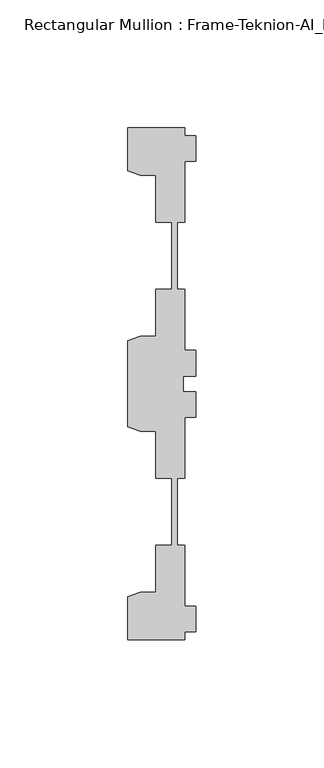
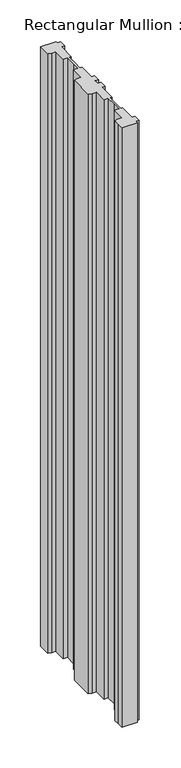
"""IFC4 building model written with IfcOpenShell, lengths in millimetres: member geometry, Rectangular Mullion : Frame-Teknion-AI_Healthcare-Ceiling_Double_Channel."""

import ifcopenshell
import ifcopenshell.guid

model = None  # the IFC model being written
_history = None  # IfcOwnerHistory: only IFC2X3 demands one
_inside = {}  # id of a spatial element -> (the spatial element, [elements in it])
_under = {}  # id of a project, library or spatial element -> (it, [spatial elements below it])
_declared = {}  # id of a project -> (the project, [libraries it declares])
_typed = {}  # id of a type object -> (the type object, [elements of that type])
_made_of = {}  # id of a material, layer set ... -> (it, [elements and type objects made of it])


def new_model(schema):
    """Start an empty IFC model of exactly this schema.

    Asked for "IFC4X3", IfcOpenShell would pick the latest addendum, in which some entities
    have other attributes; the version numbers below select the first issue.
    IFC2X3 requires an IfcOwnerHistory on every rooted entity: one is made here for all.
    """
    global model, _history
    if schema == "IFC4X3":
        model = ifcopenshell.file(schema_version=(4, 3, 0, 0))
    else:
        model = ifcopenshell.file(schema=schema)
    _inside.clear()
    _under.clear()
    _declared.clear()
    _typed.clear()
    _made_of.clear()
    _history = None
    if model.schema == "IFC2X3":
        org = make("IfcOrganization", Name="unknown")
        user = make(
            "IfcPersonAndOrganization",
            ThePerson=make("IfcPerson", FamilyName="unknown"),
            TheOrganization=org,
        )
        app = make(
            "IfcApplication",
            ApplicationDeveloper=org,
            Version="unknown",
            ApplicationFullName="unknown",
            ApplicationIdentifier="unknown",
        )
        _history = make(
            "IfcOwnerHistory",
            OwningUser=user,
            OwningApplication=app,
            ChangeAction="ADDED",
            CreationDate=0,
        )
    return model


def make(cls, **values):
    """One entity of the class cls with the attributes given. An attribute that is None is left unset."""
    return model.create_entity(
        cls, **{name: value for name, value in values.items() if value is not None}
    )


def rooted(cls, **values):
    """An entity with a GlobalId (a new one), such as an element, a storey or a relation."""
    return make(cls, GlobalId=ifcopenshell.guid.new(), OwnerHistory=_history, **values)


def si_unit(unit_type, name, prefix=None):
    """IfcSIUnit, for example si_unit("LENGTHUNIT", "METRE", prefix="MILLI")."""
    return make("IfcSIUnit", UnitType=unit_type, Prefix=prefix, Name=name)


def assignment(units):
    """IfcUnitAssignment: the units of a project."""
    return None if units is None else make("IfcUnitAssignment", Units=units)


def point(xyz):
    """IfcCartesianPoint."""
    return None if xyz is None else make("IfcCartesianPoint", Coordinates=xyz)


def direction(xyz):
    """IfcDirection."""
    return None if xyz is None else make("IfcDirection", DirectionRatios=xyz)


def frame(location, z_axis=None, x_axis=None):
    """IfcAxis2Placement3D, a coordinate frame: its origin and axes. An axis left out is left unset."""
    return make(
        "IfcAxis2Placement3D",
        Location=point(location),
        Axis=direction(z_axis),
        RefDirection=direction(x_axis),
    )


def origin():
    """The frame at (0, 0, 0) with its axes left unset."""
    return frame((0.0, 0.0, 0.0))


def place(relative_to, where):
    """IfcLocalPlacement: puts the frame where relative to a parent placement (None: the world)."""
    return make(
        "IfcLocalPlacement", PlacementRelTo=relative_to, RelativePlacement=where
    )


def context(
    kind, dimensions, precision=None, world=None, true_north=None, identifier=None
):
    """IfcGeometricRepresentationContext, for example the 3D "Model" context."""
    return make(
        "IfcGeometricRepresentationContext",
        ContextIdentifier=identifier,
        ContextType=kind,
        CoordinateSpaceDimension=dimensions,
        Precision=precision,
        WorldCoordinateSystem=world,
        TrueNorth=true_north,
    )


def project(units=None, contexts=None):
    """IfcProject with its units and contexts."""
    return rooted(
        "IfcProject",
        Name="project",
        RepresentationContexts=contexts,
        UnitsInContext=assignment(units),
    )


def spatial(cls, under=None, at=None, **own):
    """A site, building, storey or space (cls), placed at a placement, below another one or the project."""
    s = rooted(cls, ObjectPlacement=at, **own)
    if under is not None:
        _under.setdefault(under.id(), (under, []))[1].append(s)
    return s


def polyline(points):
    """IfcPolyline through the points."""
    return make("IfcPolyline", Points=[point(p) for p in points])


def outline(outer, holes=None, kind="AREA"):
    """IfcArbitraryClosedProfileDef: a profile drawn as a closed curve; with holes, ...WithVoids."""
    if holes is None:
        return make("IfcArbitraryClosedProfileDef", ProfileType=kind, OuterCurve=outer)
    return make(
        "IfcArbitraryProfileDefWithVoids",
        ProfileType=kind,
        OuterCurve=outer,
        InnerCurves=holes,
    )


def extrude(swept, where, along, depth):
    """IfcExtrudedAreaSolid: the profile swept, set in the frame where, extruded along a direction by depth."""
    return make(
        "IfcExtrudedAreaSolid",
        SweptArea=swept,
        Position=where,
        ExtrudedDirection=direction(along),
        Depth=depth,
    )


def shape(context_of_items, identifier, shape_type, items):
    """IfcShapeRepresentation: the items that make up one representation, for example the "Body"."""
    return make(
        "IfcShapeRepresentation",
        ContextOfItems=context_of_items,
        RepresentationIdentifier=identifier,
        RepresentationType=shape_type,
        Items=items,
    )


def source(mapping_origin, context_of_items, identifier, shape_type, items):
    """IfcRepresentationMap: a shape defined once, which mapped items show again and again."""
    return make(
        "IfcRepresentationMap",
        MappingOrigin=mapping_origin,
        MappedRepresentation=shape(context_of_items, identifier, shape_type, items),
    )


def transform(
    local_origin,
    x_axis=None,
    y_axis=None,
    z_axis=None,
    scale=None,
    scale2=None,
    scale3=None,
    uniform=True,
):
    """IfcCartesianTransformationOperator3D, or its non-uniform kind. x_axis, y_axis, z_axis: its Axis1, 2, 3."""
    if uniform:
        return make(
            "IfcCartesianTransformationOperator3D",
            Axis1=direction(x_axis),
            Axis2=direction(y_axis),
            LocalOrigin=point(local_origin),
            Scale=scale,
            Axis3=direction(z_axis),
        )
    return make(
        "IfcCartesianTransformationOperator3DnonUniform",
        Axis1=direction(x_axis),
        Axis2=direction(y_axis),
        LocalOrigin=point(local_origin),
        Scale=scale,
        Axis3=direction(z_axis),
        Scale2=scale2,
        Scale3=scale3,
    )


def mapped(mapping_source, mapping_target):
    """IfcMappedItem: shows the shape of a source again, moved by a transform."""
    return make(
        "IfcMappedItem", MappingSource=mapping_source, MappingTarget=mapping_target
    )


def made_of(thing, what):
    """Note that an element or type object is made of a material, layer set ...; save() writes the relation."""
    if what is not None:
        _made_of.setdefault(what.id(), (what, []))[1].append(thing)
    return thing


def element(
    cls,
    number,
    at=None,
    inside=None,
    cuts=None,
    type_object=None,
    material=None,
    context=None,
    identifier="Body",
    shape_type=None,
    held_by="IfcProductDefinitionShape",
    body=None,
    shapes=None,
    **own,
):
    """One element of the class cls, such as IfcWall. Its Tag is "e" and its number.

    at: its placement. inside: the storey or other place that contains it. cuts: it is an
    opening in that element (IfcRelVoidsElement). A single representation is given by context,
    identifier, shape_type and body (its items); several are given by shapes. held_by: the class
    of the entity that holds the representations. save() writes the other relations.
    """
    e = rooted(cls, Tag="e%d" % number, ObjectPlacement=at, **own)
    if body is not None:
        shapes = [shape(context, identifier, shape_type, body)]
    if shapes is not None:
        e.Representation = make(held_by, Representations=shapes)
    if inside is not None:
        _inside.setdefault(inside.id(), (inside, []))[1].append(e)
    if cuts is not None:
        rooted(
            "IfcRelVoidsElement", RelatingBuildingElement=cuts, RelatedOpeningElement=e
        )
    if type_object is not None:
        _typed.setdefault(type_object.id(), (type_object, []))[1].append(e)
    return made_of(e, material)


def aggregate(whole, parts):
    """IfcRelAggregates: a whole, such as a stair, and the parts it consists of."""
    return rooted("IfcRelAggregates", RelatingObject=whole, RelatedObjects=parts)


def save(model, path):
    """Write the relations noted so far, then the file.

    IfcRelAggregates (storeys below a building ...), IfcRelContainedInSpatialStructure (elements
    in a storey), IfcRelDefinesByType, IfcRelAssociatesMaterial and IfcRelDeclares: one each for
    every whole, place, type object, material and project.
    """
    for whole, parts in _under.values():
        aggregate(whole, parts)
    for where, things in _inside.values():
        rooted(
            "IfcRelContainedInSpatialStructure",
            RelatedElements=things,
            RelatingStructure=where,
        )
    for kind, things in _typed.values():
        rooted("IfcRelDefinesByType", RelatedObjects=things, RelatingType=kind)
    for what, things in _made_of.values():
        rooted("IfcRelAssociatesMaterial", RelatedObjects=things, RelatingMaterial=what)
    for by, libraries in _declared.values():
        rooted("IfcRelDeclares", RelatingContext=by, RelatedDefinitions=libraries)
    model.write(path)


def rectangular_mullion_frame_teknion_ai_healthcare_ceiling_0d31ea72(model_context):
    return source(origin(), model_context, "Body", "SweptSolid", [
        extrude(outline(polyline([(-4.2672007, 100.0110586), (-4.2672007, 96.9534451), (0.0, 96.9534451), (0.0, 86.9534377), (-4.2672007, 86.9534377), (-4.2672007, 63.0824429), (-7.1647766, 63.0824429), (-7.1647766, 48.9859882), (-7.1647766, 36.9204406), (-4.2672007, 36.9204406), (-4.2672007, 13.0494413), (0.0, 13.0494413), (0.0, 3.0494419), (-4.7752002, 3.0494419), (-4.7752002, 0.0), (-4.7752002, -3.0494419), (0.0, -3.0494419), (0.0, -13.0494413), (-4.2672007, -13.0494413), (-4.2672007, -36.9204406), (-7.1647766, -36.9204406), (-7.1647766, -50.7500324), (-7.1647766, -63.0824429), (-4.2672007, -63.0824429), (-4.2672007, -86.9534377), (0.0, -86.9534377), (0.0, -96.9534451), (-4.2672007, -96.9534451), (-4.2672007, -100.0014421), (-26.4921999, -100.0014421), (-26.4921999, -90.2224424), (-26.4921999, -83.1915336), (-21.6625199, -81.4594689), (-15.6737764, -81.4594689), (-15.6737764, -63.0824429), (-9.4507761, -63.0824429), (-9.4507761, -50.8315128), (-9.4507761, -36.9204406), (-15.6737764, -36.9204406), (-15.6737764, -18.5434146), (-21.6625199, -18.5434146), (-26.4921999, -16.8113452), (-26.4921999, 16.8113452), (-21.6357055, 18.5530311), (-15.6737764, 18.5530311), (-15.6737764, 36.9300571), (-9.4507761, 36.9300571), (-9.4507761, 47.8659877), (-9.4507761, 63.0920594), (-15.6737764, 63.0920594), (-15.6737764, 81.4690854), (-21.6625199, 81.4690854), (-26.4921999, 83.20115), (-26.4921999, 100.0110586), (-4.2672007, 100.0110586)])), frame((0.0, 0.0, -899.6023403), z_axis=(0.0, 0.0, 1.0), x_axis=(1.0, 0.0, 0.0)), (0.0, 0.0, 1.0), 899.6023403),
    ])


if __name__ == "__main__":
    model = new_model("IFC4")
    model_context = context("Model", 3, world=origin())
    ifc_project = project(units=[si_unit("LENGTHUNIT", "METRE", prefix="MILLI")], contexts=[model_context])
    site = spatial("IfcSite", under=ifc_project)
    building = spatial("IfcBuilding", under=site)
    placement = place(None, origin())
    rectangular_mullion_frame_teknion_ai_healthcare_ceiling_shape = rectangular_mullion_frame_teknion_ai_healthcare_ceiling_0d31ea72(model_context)
    element("IfcMember", 1, ObjectType="Rectangular Mullion : Frame-Teknion-AI_Healthcare-Ceiling_Double_Channel", at=placement, inside=building, context=model_context, shape_type="MappedRepresentation", body=[
        mapped(rectangular_mullion_frame_teknion_ai_healthcare_ceiling_shape, transform((0.0, 0.0, 0.0), x_axis=(1.0, 0.0, 0.0), y_axis=(0.0, 1.0, 0.0), z_axis=(0.0, 0.0, 1.0))),
    ])
    save(model, "model.ifc")
